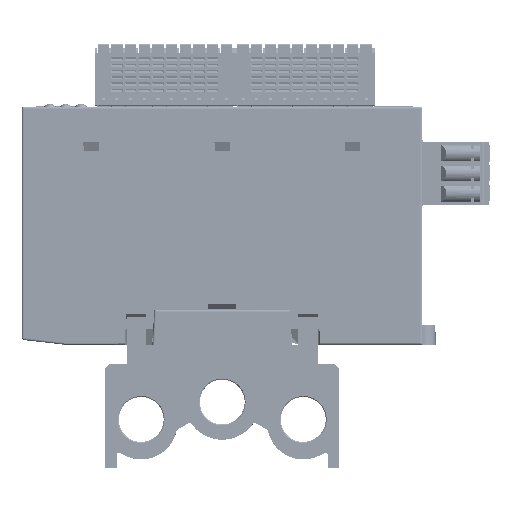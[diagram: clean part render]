
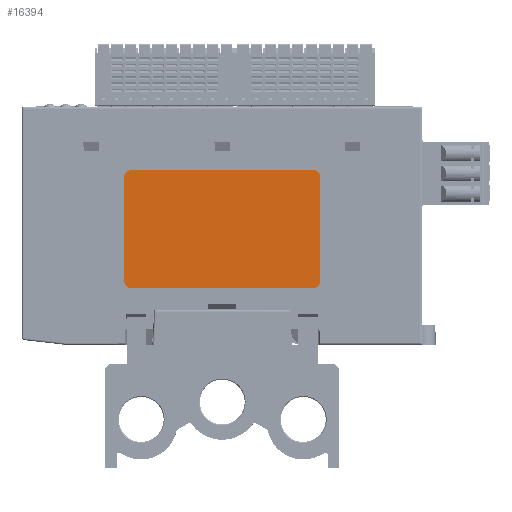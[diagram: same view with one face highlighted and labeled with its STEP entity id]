
A CAD part, front view. The second image highlights one B-rep face of the part: STEP entity #16394.
In plain terms, the highlighted planar face has unit normal (0, -1, 0).
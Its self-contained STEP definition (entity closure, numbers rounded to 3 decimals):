
#7045=FACE_OUTER_BOUND('',#70873,.T.);
#16394=ADVANCED_FACE('',(#7045),#25933,.F.);
#25933=PLANE('',#179764);
#33621=LINE('',#250387,#51657);
#33625=LINE('',#250395,#51661);
#33627=LINE('',#250399,#51663);
#33630=LINE('',#250407,#51666);
#51657=VECTOR('',#197599,1.);
#51661=VECTOR('',#197605,1.);
#51663=VECTOR('',#197609,1.);
#51666=VECTOR('',#197616,1.);
#70873=EDGE_LOOP('',(#84502,#84503,#84504,#84505,#84506,#84507,#84508,#84509));
#84502=ORIENTED_EDGE('',*,*,#150899,.F.);
#84503=ORIENTED_EDGE('',*,*,#150904,.T.);
#84504=ORIENTED_EDGE('',*,*,#150905,.F.);
#84505=ORIENTED_EDGE('',*,*,#150906,.T.);
#84506=ORIENTED_EDGE('',*,*,#150901,.F.);
#84507=ORIENTED_EDGE('',*,*,#150907,.T.);
#84508=ORIENTED_EDGE('',*,*,#150895,.F.);
#84509=ORIENTED_EDGE('',*,*,#150908,.T.);
#133744=VERTEX_POINT('',#250388);
#133745=VERTEX_POINT('',#250389);
#133746=VERTEX_POINT('',#250394);
#133747=VERTEX_POINT('',#250396);
#133748=VERTEX_POINT('',#250400);
#133749=VERTEX_POINT('',#250401);
#133750=VERTEX_POINT('',#250406);
#133751=VERTEX_POINT('',#250408);
#150895=EDGE_CURVE('',#133744,#133745,#33621,.T.);
#150899=EDGE_CURVE('',#133746,#133747,#33625,.T.);
#150901=EDGE_CURVE('',#133748,#133749,#33627,.T.);
#150904=EDGE_CURVE('',#133746,#133750,#174321,.T.);
#150905=EDGE_CURVE('',#133751,#133750,#33630,.T.);
#150906=EDGE_CURVE('',#133751,#133749,#174322,.T.);
#150907=EDGE_CURVE('',#133748,#133745,#174323,.T.);
#150908=EDGE_CURVE('',#133744,#133747,#174324,.T.);
#174321=CIRCLE('',#179760,1.8);
#174322=CIRCLE('',#179761,1.8);
#174323=CIRCLE('',#179762,1.8);
#174324=CIRCLE('',#179763,1.8);
#179760=AXIS2_PLACEMENT_3D('',#250405,#197614,#197615);
#179761=AXIS2_PLACEMENT_3D('',#250409,#197617,#197618);
#179762=AXIS2_PLACEMENT_3D('',#250410,#197619,#197620);
#179763=AXIS2_PLACEMENT_3D('',#250411,#197621,#197622);
#179764=AXIS2_PLACEMENT_3D('',#250412,#197623,#197624);
#197599=DIRECTION('',(0.,0.,-1.));
#197605=DIRECTION('',(1.,0.,0.));
#197609=DIRECTION('',(-1.,0.,0.));
#197614=DIRECTION('',(0.,-1.,0.));
#197615=DIRECTION('',(0.,0.,1.));
#197616=DIRECTION('',(0.,0.,1.));
#197617=DIRECTION('',(0.,-1.,0.));
#197618=DIRECTION('',(0.,0.,-1.));
#197619=DIRECTION('',(0.,-1.,0.));
#197620=DIRECTION('',(0.,0.,-1.));
#197621=DIRECTION('',(0.,-1.,0.));
#197622=DIRECTION('',(0.,0.,-1.));
#197623=DIRECTION('',(0.,1.,0.));
#197624=DIRECTION('',(0.,0.,-1.));
#250387=CARTESIAN_POINT('',(525.15,-2.14,34.634));
#250388=CARTESIAN_POINT('',(525.15,-2.14,47.934));
#250389=CARTESIAN_POINT('',(525.15,-2.14,21.334));
#250394=CARTESIAN_POINT('',(476.75,-2.14,49.734));
#250395=CARTESIAN_POINT('',(500.05,-2.14,49.734));
#250396=CARTESIAN_POINT('',(523.35,-2.14,49.734));
#250399=CARTESIAN_POINT('',(475.05,-2.14,19.534));
#250400=CARTESIAN_POINT('',(523.35,-2.14,19.534));
#250401=CARTESIAN_POINT('',(476.75,-2.14,19.534));
#250405=CARTESIAN_POINT('',(476.75,-2.14,47.934));
#250406=CARTESIAN_POINT('',(474.95,-2.14,47.934));
#250407=CARTESIAN_POINT('',(474.95,-2.14,34.634));
#250408=CARTESIAN_POINT('',(474.95,-2.14,21.334));
#250409=CARTESIAN_POINT('',(476.75,-2.14,21.334));
#250410=CARTESIAN_POINT('',(523.35,-2.14,21.334));
#250411=CARTESIAN_POINT('',(523.35,-2.14,47.934));
#250412=CARTESIAN_POINT('',(500.041,-2.14,23.341));
